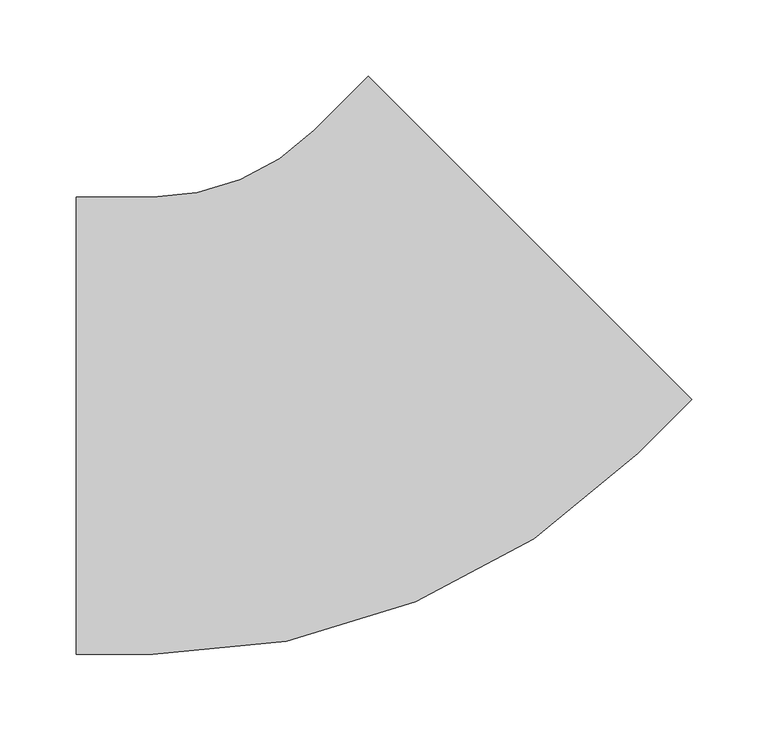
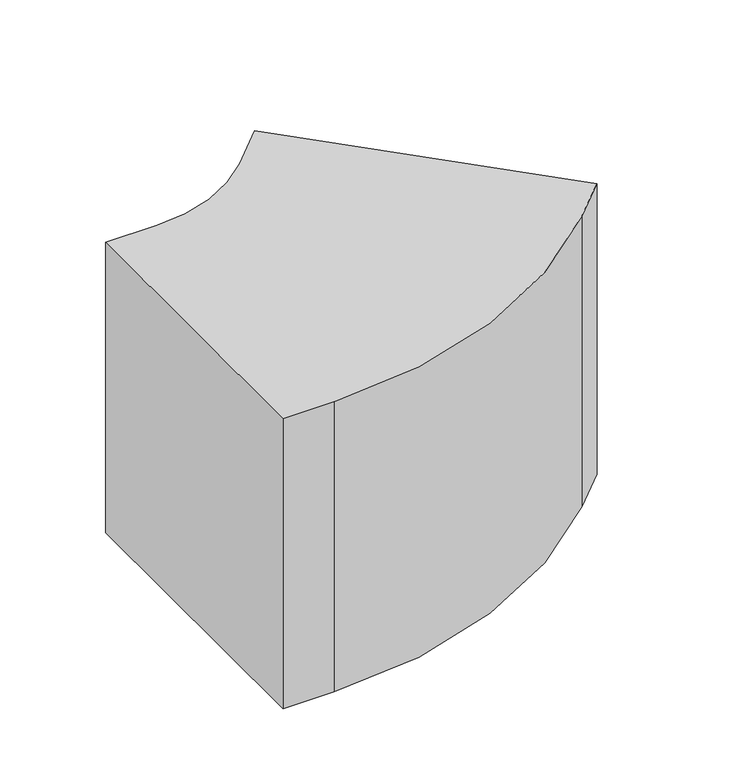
"""IFC4 building model written with IfcOpenShell, lengths in millimetres: duct fitting geometry, Отвод прямоугольного сечения : Стандартное."""

from ifc_helpers import new_model, si_unit, point, frame, frame_2d, origin, place, context, project, spatial, polyline, circle_curve, trimmed, segment, composite_curve, outline, extrude, source, transform, mapped, element, save


def duct_fitting_a30e5cd5(model_context):
    return source(origin(), model_context, "Body", "SweptSolid", [
        extrude(outline(composite_curve([segment(polyline([(-174.2640687, -150.0), (-174.2640687, 150.0), (-124.2640687, 150.0)]), True, "CONTINUOUS"), segment(trimmed(circle_curve(frame_2d((-124.2640687, 300.0)), 150.0), [point((-124.2640687, 150.0))], [point((-18.1980515, 193.9339828))], True, "CARTESIAN"), True, "CONTINUOUS"), segment(polyline([(-18.1980515, 193.9339828), (17.1572875, 229.2893219), (229.2893219, 17.1572875), (193.9339828, -18.1980515)]), True, "CONTINUOUS"), segment(trimmed(circle_curve(frame_2d((-124.2640687, 300.0)), 450.0), [point((193.9339828, -18.1980515))], [point((-124.2640687, -150.0))], False, "CARTESIAN"), True, "CONTINUOUS"), segment(polyline([(-124.2640687, -150.0), (-174.2640687, -150.0)]), True, "CONTINUOUS")], self_intersect=False)), frame((0.0, 0.0, -150.0), z_axis=(0.0, 0.0, 1.0), x_axis=(1.0, 0.0, 0.0)), (0.0, 0.0, 1.0), 300.0),
    ])


if __name__ == "__main__":
    model = new_model("IFC4")
    model_context = context("Model", 3, world=origin())
    ifc_project = project(units=[si_unit("LENGTHUNIT", "METRE", prefix="MILLI")], contexts=[model_context])
    site = spatial("IfcSite", under=ifc_project)
    building = spatial("IfcBuilding", under=site)
    placement = place(None, origin())
    duct_fitting_shape = duct_fitting_a30e5cd5(model_context)
    element("IfcDuctFitting", 1, ObjectType="Отвод прямоугольного сечения : Стандартное", at=placement, inside=building, context=model_context, shape_type="MappedRepresentation", body=[
        mapped(duct_fitting_shape, transform((0.0, 0.0, 0.0), x_axis=(1.0, 0.0, 0.0), y_axis=(0.0, 1.0, 0.0), z_axis=(0.0, 0.0, 1.0))),
    ])
    save(model, "model.ifc")
